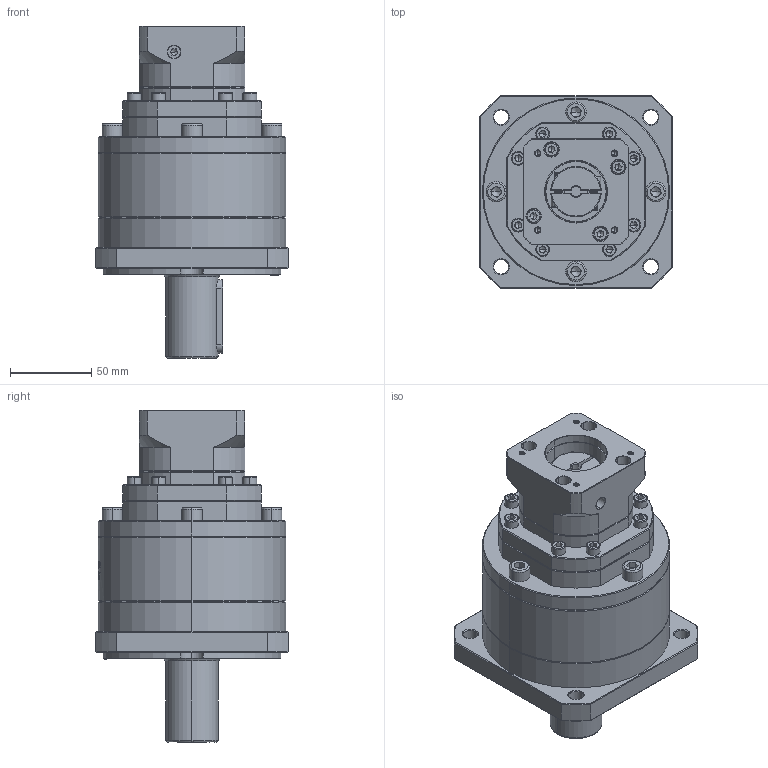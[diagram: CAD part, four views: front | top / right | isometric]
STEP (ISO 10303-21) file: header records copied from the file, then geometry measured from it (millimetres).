
FILE_DESCRIPTION (( 'STEP AP214' ), '1' );
FILE_NAME ('ZF120A-D32-L3-P2-6.35-38.1-47.14X47.14-M4.step', '2023-08-27T06:31:30', ( '' ), ( '' ), 'SwSTEP 2.0', 'SolidWorks 2016', '' );
FILE_SCHEMA (( 'AUTOMOTIVE_DESIGN' ));
Length unit declared in the file: millimetre
Products named in the file (1): ZF120A-D32-L3-P2-6.35-38.1-47.14X47.14-M4
Bounding box: 118 x 118 x 204 mm (x, y, z)
Volume: 1231234.4 mm3; surface area: 117477.3 mm2
Topology: 7 solids, 7 shells, 2348 faces, 6255 edges, 4017 vertices
Faces by surface type: plane 1179, bspline 435, cylinder 411, cone 301, torus 22
Entity records: 123078 total; most frequent: CARTESIAN_POINT 44174, ORIENTED_EDGE 12402, DIRECTION 9194, EDGE_CURVE 6201, VERTEX_POINT 4017, LINE 3312, VECTOR 3312, AXIS2_PLACEMENT_3D 2941
